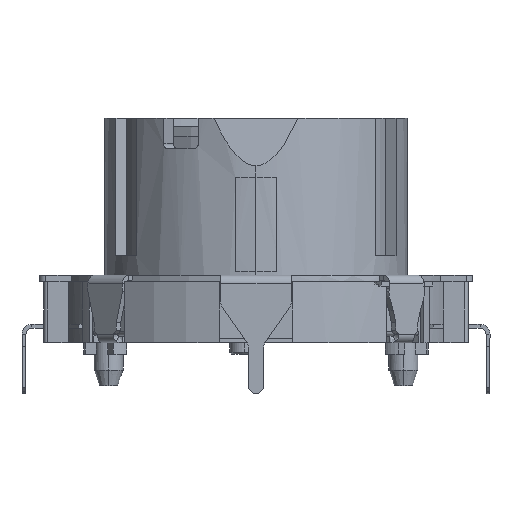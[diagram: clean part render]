
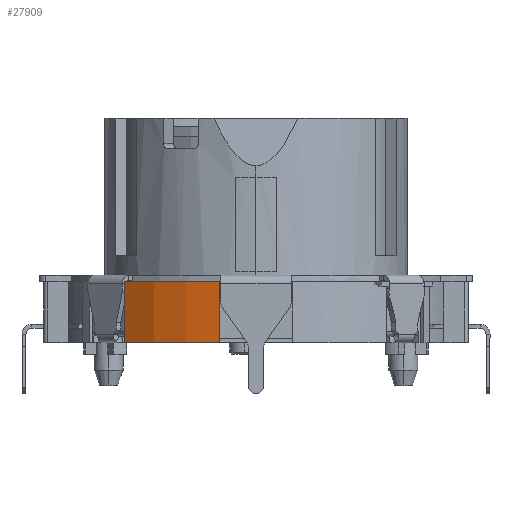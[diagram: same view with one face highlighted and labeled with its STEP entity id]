
A CAD part, left-side view. The second image highlights one B-rep face of the part: STEP entity #27909.
In plain terms, the highlighted cylindrical face has radius 10.8 mm (diameter 21.6 mm), a partial arc.
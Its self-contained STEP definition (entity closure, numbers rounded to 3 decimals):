
#1053 = DIRECTION ( 'NONE',  ( 0., 0., 1. ) ) ;
#1547 = AXIS2_PLACEMENT_3D ( 'NONE', #17435, #2227, #19978 ) ;
#1637 = DIRECTION ( 'NONE',  ( 0., 0., -1. ) ) ;
#2227 = DIRECTION ( 'NONE',  ( 0., 0., -1. ) ) ;
#3894 = ORIENTED_EDGE ( 'NONE', *, *, #17362, .F. ) ;
#4086 = CARTESIAN_POINT ( 'NONE',  ( -10.64, 1.85, -3.4 ) ) ;
#4396 = AXIS2_PLACEMENT_3D ( 'NONE', #24881, #14748, #12297 ) ;
#6486 = VERTEX_POINT ( 'NONE', #29212 ) ;
#6702 = CARTESIAN_POINT ( 'NONE',  ( -10.64, 1.85, -3.6 ) ) ;
#10391 = ORIENTED_EDGE ( 'NONE', *, *, #15414, .F. ) ;
#10501 = CYLINDRICAL_SURFACE ( 'NONE', #4396, 10.8 ) ;
#11213 = CARTESIAN_POINT ( 'NONE',  ( -8.477, 6.692, -3.4 ) ) ;
#12297 = DIRECTION ( 'NONE',  ( -1., 0., 0. ) ) ;
#12506 = CIRCLE ( 'NONE', #1547, 10.8 ) ;
#13494 = VECTOR ( 'NONE', #1637, 1000. ) ;
#13537 = CARTESIAN_POINT ( 'NONE',  ( -8.477, 6.692, -0.3 ) ) ;
#14528 = CIRCLE ( 'NONE', #26965, 10.8 ) ;
#14748 = DIRECTION ( 'NONE',  ( 0., 0., -1. ) ) ;
#15414 = EDGE_CURVE ( 'NONE', #6486, #17740, #19951, .T. ) ;
#16238 = CARTESIAN_POINT ( 'NONE',  ( 0., 0., -0.3 ) ) ;
#17362 = EDGE_CURVE ( 'NONE', #17740, #17637, #12506, .T. ) ;
#17435 = CARTESIAN_POINT ( 'NONE',  ( 0., 0., -3.4 ) ) ;
#17637 = VERTEX_POINT ( 'NONE', #11213 ) ;
#17740 = VERTEX_POINT ( 'NONE', #4086 ) ;
#18775 = DIRECTION ( 'NONE',  ( 1., 0., 0. ) ) ;
#18873 = ORIENTED_EDGE ( 'NONE', *, *, #27196, .F. ) ;
#19144 = EDGE_CURVE ( 'NONE', #31569, #17637, #20217, .T. ) ;
#19951 = LINE ( 'NONE', #6702, #25942 ) ;
#19978 = DIRECTION ( 'NONE',  ( -1., 0., 0. ) ) ;
#20217 = LINE ( 'NONE', #29584, #13494 ) ;
#20435 = ORIENTED_EDGE ( 'NONE', *, *, #19144, .T. ) ;
#21939 = EDGE_LOOP ( 'NONE', ( #20435, #3894, #10391, #18873 ) ) ;
#24881 = CARTESIAN_POINT ( 'NONE',  ( 0., 0., -3.6 ) ) ;
#25942 = VECTOR ( 'NONE', #29415, 1000. ) ;
#26437 = FACE_OUTER_BOUND ( 'NONE', #21939, .T. ) ;
#26965 = AXIS2_PLACEMENT_3D ( 'NONE', #16238, #1053, #18775 ) ;
#27196 = EDGE_CURVE ( 'NONE', #31569, #6486, #14528, .T. ) ;
#27909 = ADVANCED_FACE ( 'NONE', ( #26437 ), #10501, .T. ) ;
#29212 = CARTESIAN_POINT ( 'NONE',  ( -10.64, 1.85, -0.3 ) ) ;
#29415 = DIRECTION ( 'NONE',  ( 0., 0., -1. ) ) ;
#29584 = CARTESIAN_POINT ( 'NONE',  ( -8.477, 6.692, -3.6 ) ) ;
#31569 = VERTEX_POINT ( 'NONE', #13537 ) ;
